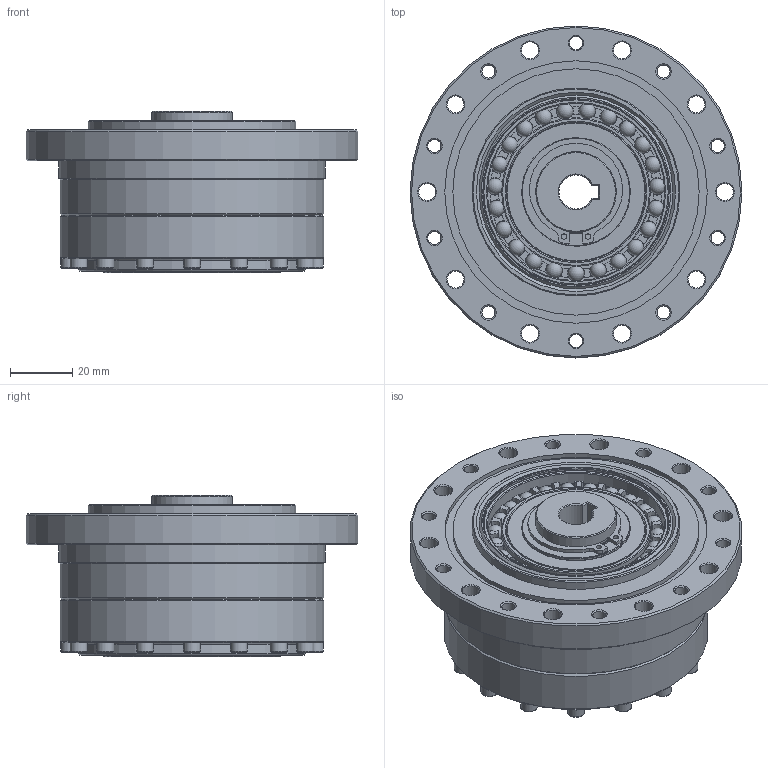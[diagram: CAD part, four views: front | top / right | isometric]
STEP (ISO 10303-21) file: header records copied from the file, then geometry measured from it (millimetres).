
FILE_DESCRIPTION(/* description */ (''),/* implementation_level */ '2;1');
FILE_NAME(/* name */ 'LSG-25-XX-U-II-φ11.stp',/* time_stamp */ '2023-06-29T09:43:12+08:00',/* author */ (''),/* organization */ (''),/* preprocessor_version */ 'ST-DEVELOPER v16.7',/* originating_system */ 'SIEMENS PLM Software NX 12.0',/* authorisation */ '');
FILE_SCHEMA (('AUTOMOTIVE_DESIGN { 1 0 10303 214 3 1 1 1 }'));
Length unit declared in the file: millimetre
Products named in the file (19): EB456009-25KC-46; EB456009-25KE-01; TC-58x70x5; O-66x1; 轴用弹性挡圈φ26; GB-T70.1-2000,M3x20; GB-T70.1-2000,M6x20; 销子3x10; 铜垫圈26.5x35x1; CS-25-00-02; CS-25-00-04; CSG-25-00-01-K11; CS-25-XX-03; 柔轮垫块LSS-25; 柔轮LSS-25; 刚轮LSS-25; EB456009-25KE; 交叉轴承LSS-25; LSG-25-XX-U-II-φ11
Assembly tree (43 placements, depth 3):
  LSG-25-XX-U-II-φ11
    交叉轴承LSS-25
      TC-58x70x5
    刚轮LSS-25
    柔轮LSS-25
    柔轮垫块LSS-25
    EB456009-25KE
      EB456009-25KE-01
      EB456009-25KC-46
    CS-25-XX-03
    CSG-25-00-01-K11
    CS-25-00-04
    CS-25-00-02
    铜垫圈26.5x35x1
    销子3x10  x4
    GB-T70.1-2000,M6x20  x8
    GB-T70.1-2000,M3x20  x16
    轴用弹性挡圈φ26
    O-66x1
Bounding box: 107 x 107 x 52 mm (x, y, z)
Volume: 205640.4 mm3; surface area: 127887.7 mm2
Topology: 67 solids, 67 shells, 1459 faces, 3234 edges, 1912 vertices
Faces by surface type: plane 578, cone 437, cylinder 284, torus 136, sphere 23, revolution 1
Full cylindrical faces by diameter (mm): 1.733 x2, 2.5 x16, 2.874 x16, 3 x12, 3.5 x16, 4.2 x10, 5 x8, 5.5 x26, 5.795 x8, 6.5 x16, 6.8 x8, 10 x8, 15 x1, 20 x3, 24.9 x1, 26 x2, 26.5 x4, 32 x1, 35 x1, 39 x1, 41 x1, 42.8 x1, 44 x1, 45 x2, 47.92 x2, 50 x1, 52.6 x1, 53 x1, 55.3 x1, 55.4 x1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
Entity records: 24217 total; most frequent: CARTESIAN_POINT 5299, DIRECTION 4053, ORIENTED_EDGE 2958, AXIS2_PLACEMENT_3D 1823, EDGE_CURVE 1479, EDGE_LOOP 1470, VERTEX_POINT 1191, FACE_BOUND 1178
